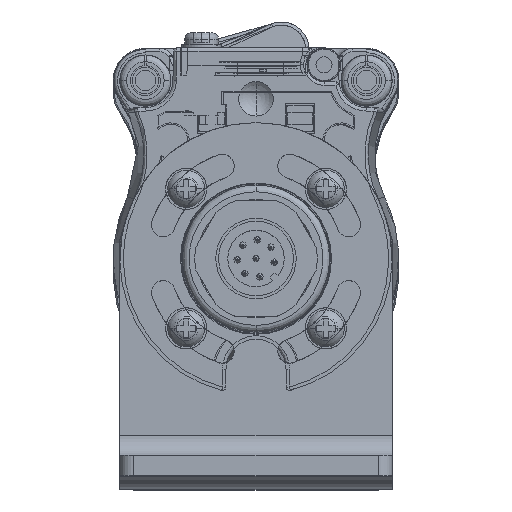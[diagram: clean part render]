
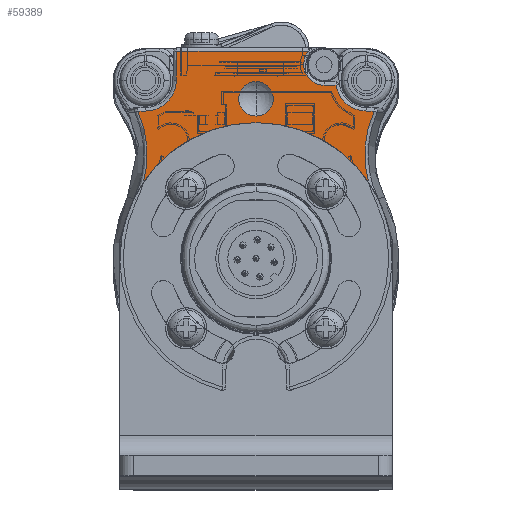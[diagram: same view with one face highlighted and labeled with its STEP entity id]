
A CAD part, top view. The second image highlights one B-rep face of the part: STEP entity #59389.
In plain terms, the highlighted planar face has unit normal (0, 0, 1).
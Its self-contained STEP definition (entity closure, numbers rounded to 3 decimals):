
#2060=CARTESIAN_POINT('',(0.,0.,50.));
#2061=DIRECTION('',(0.,0.,1.));
#2062=DIRECTION('',(0.826,0.563,0.));
#2063=AXIS2_PLACEMENT_3D('',#2060,#2061,#2062);
#2068=CARTESIAN_POINT('',(-31.48,15.3,50.));
#2069=DIRECTION('',(0.,0.,-1.));
#2070=DIRECTION('',(0.911,0.413,0.));
#2071=AXIS2_PLACEMENT_3D('',#2068,#2069,#2070);
#2076=DIRECTION('',(-1.,0.,0.));
#2077=VECTOR('',#2076,1.114);
#2078=CARTESIAN_POINT('',(-16.26,21.7,50.));
#2079=LINE('',#2078,#2077);
#2083=CARTESIAN_POINT('',(-16.26,26.25,50.));
#2084=DIRECTION('',(0.,0.,-1.));
#2085=DIRECTION('',(1.,-0.001,0.));
#2086=AXIS2_PLACEMENT_3D('',#2083,#2084,#2085);
#2091=DIRECTION('',(-0.017,-1.,0.));
#2092=VECTOR('',#2091,4.255);
#2093=CARTESIAN_POINT('',(-11.636,30.5,50.));
#2094=LINE('',#2093,#2092);
#2098=DIRECTION('',(-1.,0.,0.));
#2099=VECTOR('',#2098,19.4);
#2100=CARTESIAN_POINT('',(7.764,30.5,50.));
#2101=LINE('',#2100,#2099);
#2105=CARTESIAN_POINT('',(10.,28.5,50.));
#2106=DIRECTION('',(0.,0.,-1.));
#2107=DIRECTION('',(0.,-1.,0.));
#2108=AXIS2_PLACEMENT_3D('',#2105,#2106,#2107);
#2113=DIRECTION('',(-1.,0.,0.));
#2114=VECTOR('',#2113,1.762);
#2115=CARTESIAN_POINT('',(11.762,25.5,50.));
#2116=LINE('',#2115,#2114);
#2120=CARTESIAN_POINT('',(16.25,26.25,50.));
#2121=DIRECTION('',(0.,0.,-1.));
#2122=DIRECTION('',(0.,-1.,0.));
#2123=AXIS2_PLACEMENT_3D('',#2120,#2121,#2122);
#2128=DIRECTION('',(-1.,0.,0.));
#2129=VECTOR('',#2128,1.124);
#2130=CARTESIAN_POINT('',(17.374,21.7,50.));
#2131=LINE('',#2130,#2129);
#2135=CARTESIAN_POINT('',(31.48,15.3,50.));
#2136=DIRECTION('',(0.,0.,-1.));
#2137=DIRECTION('',(-0.966,-0.26,0.));
#2138=AXIS2_PLACEMENT_3D('',#2135,#2136,#2137);
#2143=CARTESIAN_POINT('',(0.,23.51,50.));
#2144=DIRECTION('',(0.,0.,1.));
#2145=DIRECTION('',(0.,-1.,0.));
#2146=AXIS2_PLACEMENT_3D('',#2143,#2144,#2145);
#2151=CARTESIAN_POINT('',(0.,23.51,50.));
#2152=DIRECTION('',(0.,0.,1.));
#2153=DIRECTION('',(0.,1.,0.));
#2154=AXIS2_PLACEMENT_3D('',#2151,#2152,#2153);
#52731=CARTESIAN_POINT('',(-11.71,26.246,50.));
#52732=CARTESIAN_POINT('',(-16.26,21.7,50.));
#52733=VERTEX_POINT('',#52731);
#52734=VERTEX_POINT('',#52732);
#52741=CARTESIAN_POINT('',(-11.636,30.5,50.));
#52742=VERTEX_POINT('',#52741);
#52745=CARTESIAN_POINT('',(7.764,30.5,50.));
#52746=VERTEX_POINT('',#52745);
#52751=CARTESIAN_POINT('',(10.,25.5,50.));
#52752=VERTEX_POINT('',#52751);
#52755=CARTESIAN_POINT('',(11.762,25.5,50.));
#52756=VERTEX_POINT('',#52755);
#52761=CARTESIAN_POINT('',(16.25,21.7,50.));
#52762=VERTEX_POINT('',#52761);
#52765=CARTESIAN_POINT('',(17.374,21.7,50.));
#52766=VERTEX_POINT('',#52765);
#52791=CARTESIAN_POINT('',(-17.374,21.7,50.));
#52792=VERTEX_POINT('',#52791);
#52850=CARTESIAN_POINT('',(0.,20.97,50.));
#52851=CARTESIAN_POINT('',(0.,26.05,50.));
#52852=VERTEX_POINT('',#52850);
#52853=VERTEX_POINT('',#52851);
#54574=CARTESIAN_POINT('',(16.525,11.267,50.));
#54575=CARTESIAN_POINT('',(-16.525,11.267,50.));
#54576=VERTEX_POINT('',#54574);
#54577=VERTEX_POINT('',#54575);
#59355=CARTESIAN_POINT('',(0.,0.,50.));
#59356=DIRECTION('',(0.,0.,1.));
#59357=DIRECTION('',(1.,0.,0.));
#59358=AXIS2_PLACEMENT_3D('',#59355,#59356,#59357);
#59359=PLANE('',#59358);
#59361=ORIENTED_EDGE('',*,*,#59360,.T.);
#59363=ORIENTED_EDGE('',*,*,#59362,.F.);
#59365=ORIENTED_EDGE('',*,*,#59364,.F.);
#59367=ORIENTED_EDGE('',*,*,#59366,.F.);
#59369=ORIENTED_EDGE('',*,*,#59368,.F.);
#59371=ORIENTED_EDGE('',*,*,#59370,.F.);
#59373=ORIENTED_EDGE('',*,*,#59372,.F.);
#59375=ORIENTED_EDGE('',*,*,#59374,.F.);
#59376=ORIENTED_EDGE('',*,*,#59338,.F.);
#59378=ORIENTED_EDGE('',*,*,#59377,.F.);
#59380=ORIENTED_EDGE('',*,*,#59379,.F.);
#59381=EDGE_LOOP('',(#59361,#59363,#59365,#59367,#59369,#59371,#59373,#59375,
#59376,#59378,#59380));
#59382=FACE_OUTER_BOUND('',#59381,.F.);
#59384=ORIENTED_EDGE('',*,*,#59383,.T.);
#59386=ORIENTED_EDGE('',*,*,#59385,.T.);
#59387=EDGE_LOOP('',(#59384,#59386));
#59388=FACE_BOUND('',#59387,.F.);
#2064=CIRCLE('',#2063,20.);
#2072=CIRCLE('',#2071,15.49);
#2087=CIRCLE('',#2086,4.55);
#2109=CIRCLE('',#2108,3.);
#2124=CIRCLE('',#2123,4.55);
#2139=CIRCLE('',#2138,15.49);
#2147=CIRCLE('',#2146,2.54);
#2155=CIRCLE('',#2154,2.54);
#59338=EDGE_CURVE('',#52762,#52756,#2124,.T.);
#59360=EDGE_CURVE('',#54576,#54577,#2064,.T.);
#59362=EDGE_CURVE('',#52792,#54577,#2072,.T.);
#59364=EDGE_CURVE('',#52734,#52792,#2079,.T.);
#59366=EDGE_CURVE('',#52733,#52734,#2087,.T.);
#59368=EDGE_CURVE('',#52742,#52733,#2094,.T.);
#59370=EDGE_CURVE('',#52746,#52742,#2101,.T.);
#59372=EDGE_CURVE('',#52752,#52746,#2109,.T.);
#59374=EDGE_CURVE('',#52756,#52752,#2116,.T.);
#59377=EDGE_CURVE('',#52766,#52762,#2131,.T.);
#59379=EDGE_CURVE('',#54576,#52766,#2139,.T.);
#59383=EDGE_CURVE('',#52852,#52853,#2147,.T.);
#59385=EDGE_CURVE('',#52853,#52852,#2155,.T.);
#59389=ADVANCED_FACE('',(#59382,#59388),#59359,.T.);
